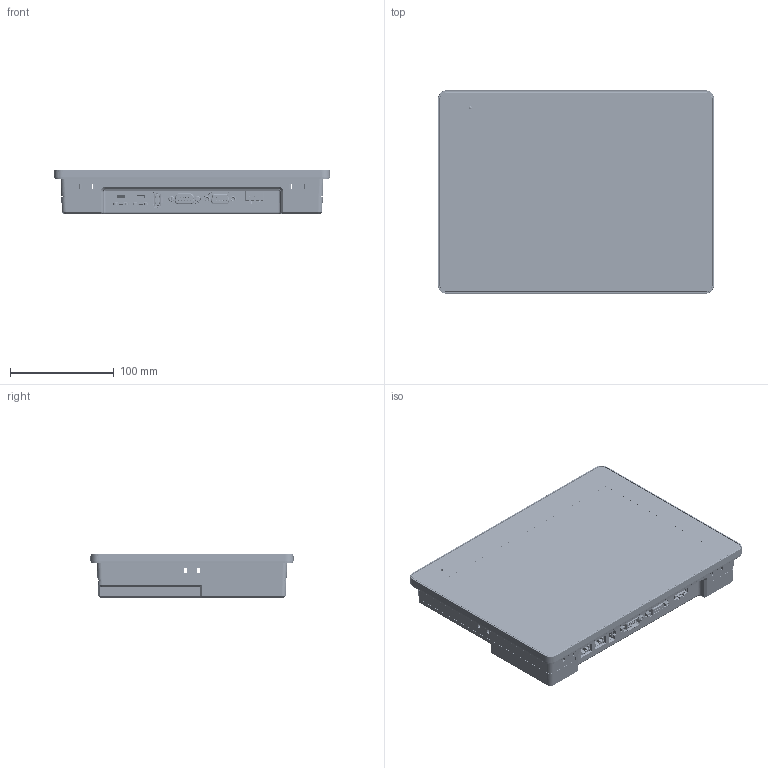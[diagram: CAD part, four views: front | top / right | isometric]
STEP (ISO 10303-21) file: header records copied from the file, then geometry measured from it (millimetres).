
FILE_DESCRIPTION (( 'STEP AP214' ), '1' );
FILE_NAME ('cMT3108XP-220902.STEP', '2023-01-19T02:12:06', ( '' ), ( '' ), 'SwSTEP 2.0', 'SolidWorks 2019', '' );
FILE_SCHEMA (( 'AUTOMOTIVE_DESIGN' ));
Length unit declared in the file: millimetre
Products named in the file (120): 69_FPC_BLU_HEAD_20220311; ______4_; ______3_; 69_FPC_BLU_G101EAT02V5_0309; ______15_; 66_DIF_U_G101EAT02V5_20220314; 3108XP散熱片_220922; 40_LED3806_CBS206W_P_10; G101EAN02_CF_; 00346_6; TP_COMPONENT_20220511; PowerªO_PCBA_200507; ______13_; 1_86; 40_LED3806_CBS206W_P_16; RZ0280212; 00346_16; FEFCA8P10_220902; D-SUB (F); ______2_; 00346_7; 40_LED3806_CBS206W_P_14; 70_GFF_G101EAT02V7_20220510; 40_LED3806_CBS206W_P_17; ______1_; 40_LED3806_CBS206W_P_11; 69_FPC_G101EAT02V5_20220311_2; 40_LED3806_CBS206W_P_12; connector male; 00346_17; PCB_G101EAN02_1_; 80_LB_FIX_LGP_20220309; 80_DSA_G101EAT02V7_20220511_1; 70A_SENSOR_G101EAT02V7_20220510; 80_SHIPPING_G101EAT02V5_0315; ______14_; RZ8073100_130304; 54_FPCA_G101EAT02V7_20220511; 40_LED3806_CBS206W_P_26; 97_tts_g101eat02v7_X1_20220808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
Assembly tree (123 placements, depth 8):
  cMT3108XP-220902
    FEFCA8P10_220902
    97_tts_g101eat02v7_X1_20220808
      53_G101EAT02V5_20220316
        80_CELL_BOTTOM_G101EAT02V5_03_1
        80_DSA_G101EAT02V7_20220511_1
        85_OCA_02T_G101EAT02_V4_1120_
      59_BLU_G101EAT02V5_20220330
        59_BLU_G101EAT02V5_20220309
          58_LB_G101EAT02V5_20220310
            69_FPC_BLU_G101EAT02V5_0309
              40_LED3806_CBS206W_P
              40_LED3806_CBS206W_P_1
              40_LED3806_CBS206W_P_10
                40_LED3806_CBS206W_P_10
                0032
              40_LED3806_CBS206W_P_11
              40_LED3806_CBS206W_P_12
              40_LED3806_CBS206W_P_13
              40_LED3806_CBS206W_P_14
              40_LED3806_CBS206W_P_15
              40_LED3806_CBS206W_P_16
              40_LED3806_CBS206W_P_17
              40_LED3806_CBS206W_P_18
              40_LED3806_CBS206W_P_19
              40_LED3806_CBS206W_P_20
              40_LED3806_CBS206W_P_21
              40_LED3806_CBS206W_P_22
              40_LED3806_CBS206W_P_23
              40_LED3806_CBS206W_P_24
              40_LED3806_CBS206W_P_25
              40_LED3806_CBS206W_P_26
              69_FPC_BLU_G101EAT02V5_0311
              69_FPC_BLU_HEAD_20220311
            80_FPC_PROTECT_G101_20220428
            80_LB_FIX_LGP_20220309
          66_DIF_U_G101EAT02V5_20220314
          80_GND_G101EAT02V5_20220315
        1_58
          1_86
          1_50
          1_98
        G101EAT02V5_ZJ_BLU_X1_20220427
          FRAME_X1_20220427
          G101EAT02V5_BEZEL_V1_20220427
        00346
          00346_1
          00346_15
          00346_16
          00346_17
          00346_6
          00346_7
          20
      70_GFF_G101EAT02V7_20220510
        54_FPCA_G101EAT02V7_20220511
          54_FPCA_G101EAT02V7_20220511_1
          80_TP_DB_G101EAT02V7_20220511
        70A_SENSOR_G101EAT02V7_20220510
        78_CL_G101EAT02V7_20220517
      80_SHIPPING_G101EAT02V5_0315
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Bounding box: 265.9 x 195.9 x 42.7 mm (x, y, z)
Volume: 496665.8 mm3; surface area: 1389411.2 mm2
Topology: 167 solids, 172 shells, 12156 faces, 33203 edges, 21502 vertices
Faces by surface type: plane 8319, bspline 1699, cylinder 1383, cone 524, torus 217, sphere 14
Full cylindrical faces by diameter (mm): 0.221 x1, 0.35 x25, 0.518 x1, 0.6 x9, 0.7 x2, 0.75 x4, 0.8 x9, 0.9 x9, 1 x15, 1.016 x32, 1.372 x4, 1.422 x24, 1.575 x18, 2.5 x5, 2.54 x4, 2.72 x18, 2.794 x2, 2.845 x4, 2.997 x4, 3 x6, 3.19 x1, 3.2 x6, 3.3 x4, 3.6 x2, 3.7 x2, 3.8 x4, 4.19 x1, 4.35 x2, 4.826 x4, 5 x7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
Entity records: 446658 total; most frequent: CARTESIAN_POINT 146281, ORIENTED_EDGE 60930, DIRECTION 47578, EDGE_CURVE 30506, VECTOR 22038, LINE 22038, VERTEX_POINT 20012, AXIS2_PLACEMENT_3D 12770
